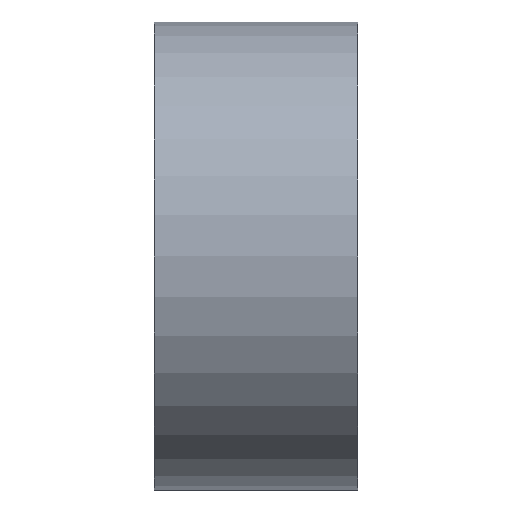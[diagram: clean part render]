
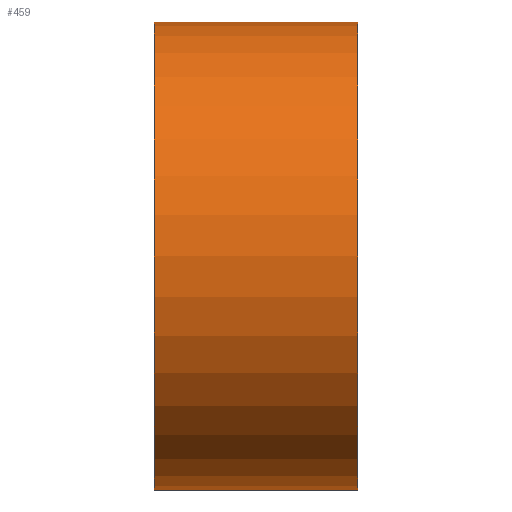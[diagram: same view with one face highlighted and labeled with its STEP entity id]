
A CAD part, front view. The second image highlights one B-rep face of the part: STEP entity #459.
In plain terms, the highlighted cylindrical face has radius 152.63 mm (diameter 305.26 mm), a full revolution.
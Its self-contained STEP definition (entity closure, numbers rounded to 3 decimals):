
#29=FACE_BOUND('',#101,.T.);
#67=FACE_OUTER_BOUND('',#100,.T.);
#100=EDGE_LOOP('',(#390));
#101=EDGE_LOOP('',(#391));
#158=CIRCLE('',#522,152.63);
#159=CIRCLE('',#523,152.63);
#226=VERTEX_POINT('',#958);
#227=VERTEX_POINT('',#960);
#289=EDGE_CURVE('',#226,#226,#158,.T.);
#290=EDGE_CURVE('',#227,#227,#159,.T.);
#390=ORIENTED_EDGE('',*,*,#289,.T.);
#391=ORIENTED_EDGE('',*,*,#290,.F.);
#437=CYLINDRICAL_SURFACE('',#521,152.63);
#459=ADVANCED_FACE('',(#67,#29),#437,.T.);
#521=AXIS2_PLACEMENT_3D('',#957,#642,#643);
#522=AXIS2_PLACEMENT_3D('',#959,#644,#645);
#523=AXIS2_PLACEMENT_3D('',#961,#646,#647);
#642=DIRECTION('center_axis',(1.,0.,0.));
#643=DIRECTION('ref_axis',(0.,1.,0.));
#644=DIRECTION('center_axis',(1.,0.,0.));
#645=DIRECTION('ref_axis',(0.,0.,-1.));
#646=DIRECTION('center_axis',(1.,0.,0.));
#647=DIRECTION('ref_axis',(0.,0.,-1.));
#957=CARTESIAN_POINT('Origin',(63.736,-14.564,0.));
#958=CARTESIAN_POINT('',(-2.764,138.066,0.));
#959=CARTESIAN_POINT('Origin',(-2.764,-14.564,0.));
#960=CARTESIAN_POINT('',(130.236,138.066,0.));
#961=CARTESIAN_POINT('Origin',(130.236,-14.564,0.));
